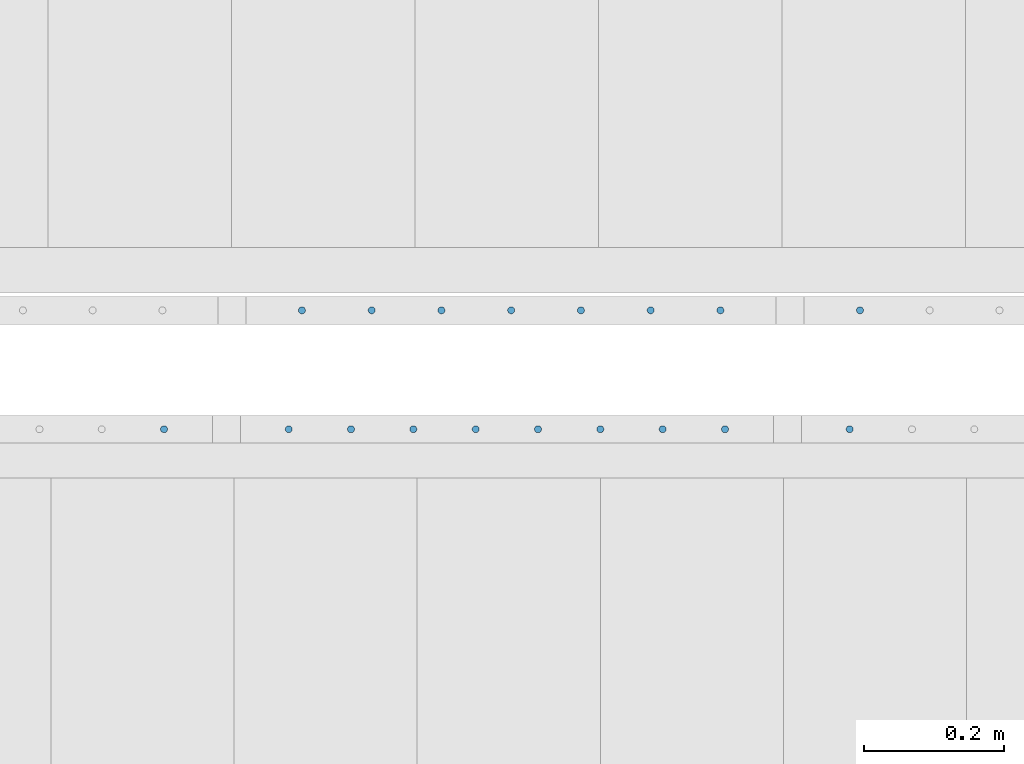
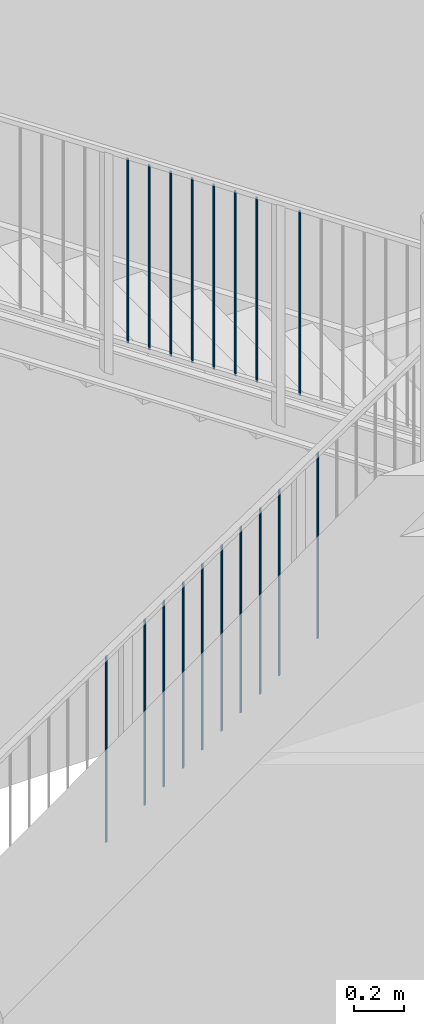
# One storey, part 7 of 117: 18 members, 2 elements without a shape of their own.
"""IFC2X3 building model written with IfcOpenShell, lengths in millimetres."""

from ifc_helpers import new_model, entity, si_unit, converted_unit, derived_unit, money_unit, direction, frame, origin_with_axes, place, context, subcontext, project, spatial, faceted_brep, source, transform, mapped, material, type_object, type_shapes, element, aggregate, save


model = new_model("IFC2X3")

# Units and contexts
model_context = context("Model", 3, precision=0.01, world=origin_with_axes(), true_north=direction((0.0, 1.0)))
body_context = subcontext(model_context, "Body", "Model", "MODEL_VIEW")
ifc_project = project(units=[si_unit("LENGTHUNIT", "METRE", prefix="MILLI"), si_unit("AREAUNIT", "SQUARE_METRE"), si_unit("VOLUMEUNIT", "CUBIC_METRE"), converted_unit("PLANEANGLEUNIT", "DEGREE", entity("IfcPlaneAngleMeasure", 0.0174532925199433), si_unit("PLANEANGLEUNIT", "RADIAN"), dimensions=[0, 0, 0, 0, 0, 0, 0]), money_unit("EUR"), converted_unit("TIMEUNIT", "Year", entity("IfcTimeMeasure", 31557600.0), si_unit("TIMEUNIT", "SECOND"), dimensions=[0, 0, 1, 0, 0, 0, 0]), si_unit("MASSUNIT", "GRAM", prefix="KILO"), si_unit("THERMODYNAMICTEMPERATUREUNIT", "DEGREE_CELSIUS"), si_unit("LUMINOUSINTENSITYUNIT", "LUMEN"), si_unit("ENERGYUNIT", "JOULE", prefix="MEGA"), derived_unit("THERMALCONDUCTANCEUNIT", [(si_unit("POWERUNIT", "WATT"), 1), (si_unit("LENGTHUNIT", "METRE"), -1), (si_unit("THERMODYNAMICTEMPERATUREUNIT", "KELVIN"), -1)]), derived_unit("SPECIFICHEATCAPACITYUNIT", [(si_unit("ENERGYUNIT", "JOULE"), 1), (si_unit("MASSUNIT", "GRAM", prefix="KILO"), -1), (si_unit("THERMODYNAMICTEMPERATUREUNIT", "KELVIN"), -1)]), derived_unit("MASSDENSITYUNIT", [(si_unit("MASSUNIT", "GRAM", prefix="KILO"), 1), (si_unit("VOLUMEUNIT", "CUBIC_METRE"), -1)])], contexts=[model_context])

# Site, building, storey
site_placement = place(None, origin_with_axes())
site = spatial("IfcSite", under=ifc_project, at=site_placement, Name="Site", CompositionType="ELEMENT")
building_placement = place(site_placement, origin_with_axes())
building = spatial("IfcBuilding", under=site, at=building_placement, Name="Naam gebouw", CompositionType="ELEMENT")
storey_placement = place(building_placement, frame((0.0, 0.0, 4150.0), z_axis=(0.0, 0.0, 1.0), x_axis=(1.0, 0.0, 0.0)))
storey = spatial("IfcBuildingStorey", under=building, at=storey_placement, Name="1e verdieping N", CompositionType="ELEMENT", Elevation=4150.0)

# Railing, members
railing_type = type_object("IfcRailingType", Name="Railing Type", PredefinedType="NOTDEFINED")
railing_1_placement = place(storey_placement, frame((56130.0, 22285.9124251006, 163.6876419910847), z_axis=(0.0, 0.0, 1.0), x_axis=(1.0, 0.0, 0.0)))
railing_1 = element("IfcRailing", 1, at=railing_1_placement, inside=storey, type_object=railing_type, Name="_Reling-x", PredefinedType="NOTDEFINED")
ifc_material = material(Name="Metaal - Staal C")
member_type = type_object("IfcMemberType", Name="IfcMember", PredefinedType="MEMBER")
shared_shape_1 = source(origin_with_axes(), body_context, "Body", "Brep", [
    faceted_brep([(0.0, -5.000000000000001, -3.340321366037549), (0.8682408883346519, -4.924038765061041, -3.289574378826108), (0.8682408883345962, -4.924038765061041, 904.2104256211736), (0.0, -5.000000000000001, 904.1596786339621), (-0.8682408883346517, -4.924038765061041, -3.289574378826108), (-1.710100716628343, -4.698463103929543, -3.13887533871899), (-2.500000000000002, -4.330127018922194, -2.892803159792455), (-3.213938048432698, -3.83022221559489, -2.558834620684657), (-3.830222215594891, -3.213938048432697, -2.147117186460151), (-4.330127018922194, -2.500000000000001, -1.670160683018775), (-4.698463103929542, -1.710100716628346, -1.142457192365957), (-4.924038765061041, -0.8682408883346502, -0.5800407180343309), (-5.0, 0.0, 0.0), (-4.92403876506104, 0.8682408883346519, 0.5800407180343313), (-4.698463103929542, 1.710100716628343, 1.142457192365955), (-4.330127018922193, 2.500000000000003, 1.670160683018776), (-3.83022221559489, 3.213938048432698, 2.147117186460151), (-3.213938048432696, 3.830222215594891, 2.558834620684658), (-2.5, 4.330127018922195, 2.892803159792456), (-1.710100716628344, 4.698463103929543, 3.13887533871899), (-0.8682408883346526, 4.924038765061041, 3.289574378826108), (0.0, 5.000000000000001, 3.340321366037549), (0.8682408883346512, 4.924038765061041, 3.289574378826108), (1.710100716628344, 4.698463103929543, 3.13887533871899), (2.5, 4.330127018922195, 2.892803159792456), (3.213938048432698, 3.83022221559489, 2.558834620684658), (3.83022221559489, 3.213938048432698, 2.147117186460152), (4.330127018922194, 2.499999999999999, 1.670160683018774), (4.698463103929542, 1.710100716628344, 1.142457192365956), (4.92403876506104, 0.8682408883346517, 0.580040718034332), (5.0, 0.0, 0.0), (4.92403876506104, -0.8682408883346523, -0.5800407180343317), (4.698463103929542, -1.710100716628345, -1.142457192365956), (4.330127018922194, -2.500000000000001, -1.670160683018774), (3.83022221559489, -3.213938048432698, -2.147117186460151), (3.213938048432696, -3.830222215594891, -2.558834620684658), (2.5, -4.330127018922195, -2.892803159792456), (1.710100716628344, -4.698463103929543, -3.13887533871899), (1.710100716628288, -4.698463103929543, 904.3611246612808), (2.499999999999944, -4.330127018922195, 904.6071968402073), (3.213938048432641, -3.830222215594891, 904.9411653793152), (3.830222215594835, -3.213938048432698, 905.3528828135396), (4.330127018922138, -2.500000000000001, 905.8298393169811), (4.698463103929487, -1.710100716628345, 906.3575428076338), (4.924038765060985, -0.8682408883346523, 906.9199592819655), (4.999999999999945, 0.0, 907.4999999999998), (4.924038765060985, 0.8682408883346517, 908.0800407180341), (4.698463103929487, 1.710100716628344, 908.6424571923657), (4.330127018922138, 2.499999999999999, 909.1701606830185), (3.830222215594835, 3.213938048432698, 909.6471171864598), (3.213938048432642, 3.83022221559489, 910.0588346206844), (2.499999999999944, 4.330127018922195, 910.3928031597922), (1.710100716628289, 4.698463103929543, 910.6388753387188), (0.8682408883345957, 4.924038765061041, 910.7895743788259), (0.0, 5.000000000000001, 910.8403213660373), (-0.8682408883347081, 4.924038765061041, 910.7895743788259), (-1.710100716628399, 4.698463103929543, 910.6388753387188), (-2.500000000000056, 4.330127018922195, 910.3928031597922), (-3.213938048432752, 3.830222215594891, 910.0588346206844), (-3.830222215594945, 3.213938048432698, 909.6471171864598), (-4.330127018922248, 2.500000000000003, 909.1701606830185), (-4.698463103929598, 1.710100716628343, 908.6424571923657), (-4.924038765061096, 0.8682408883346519, 908.0800407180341), (-5.000000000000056, 0.0, 907.4999999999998), (-4.924038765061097, -0.8682408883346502, 906.9199592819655), (-4.698463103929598, -1.710100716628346, 906.3575428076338), (-4.330127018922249, -2.500000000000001, 905.8298393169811), (-3.830222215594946, -3.213938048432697, 905.3528828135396), (-3.213938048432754, -3.83022221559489, 904.9411653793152), (-2.500000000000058, -4.330127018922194, 904.6071968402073), (-1.710100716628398, -4.698463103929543, 904.3611246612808), (-0.8682408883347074, -4.924038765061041, 904.2104256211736)], [[[0, 1, 2, 3]], [[0, 4, 5, 6, 7, 8, 9, 10, 11, 12, 13, 14, 15, 16, 17, 18, 19, 20, 21, 22, 23, 24, 25, 26, 27, 28, 29, 30, 31, 32, 33, 34, 35, 36, 37, 1]], [[1, 37, 38, 2]], [[3, 2, 38, 39, 40, 41, 42, 43, 44, 45, 46, 47, 48, 49, 50, 51, 52, 53, 54, 55, 56, 57, 58, 59, 60, 61, 62, 63, 64, 65, 66, 67, 68, 69, 70, 71]], [[4, 0, 3, 71]], [[5, 4, 71, 70]], [[6, 5, 70, 69]], [[7, 6, 69, 68]], [[8, 7, 68, 67]], [[9, 8, 67, 66]], [[10, 9, 66, 65]], [[11, 10, 65, 64]], [[12, 11, 64, 63]], [[13, 12, 63, 62]], [[14, 13, 62, 61]], [[15, 14, 61, 60]], [[16, 15, 60, 59]], [[17, 16, 59, 58]], [[18, 17, 58, 57]], [[19, 18, 57, 56]], [[20, 19, 56, 55]], [[21, 20, 55, 54]], [[22, 21, 54, 53]], [[23, 22, 53, 52]], [[24, 23, 52, 51]], [[25, 24, 51, 50]], [[26, 25, 50, 49]], [[27, 26, 49, 48]], [[28, 27, 48, 47]], [[29, 28, 47, 46]], [[30, 29, 46, 45]], [[31, 30, 45, 44]], [[32, 31, 44, 43]], [[33, 32, 43, 42]], [[34, 33, 42, 41]], [[35, 34, 41, 40]], [[36, 35, 40, 39]], [[37, 36, 39, 38]]]),
])
member_1_placement = place(railing_1_placement, frame((1125.522119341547, 24.99999999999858, 665.1579791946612), z_axis=(0.0, 0.0, 1.0), x_axis=(1.0, 0.0, 0.0)))
member_1 = element("IfcMember", 2, at=member_1_placement, type_object=member_type, material=ifc_material, Name="_Spijlen-x", ObjectType="MEMBER", context=body_context, shape_type="MappedRepresentation", body=[
    mapped(shared_shape_1, transform((0.0, 0.0, 0.0), x_axis=(0.0, -1.0, 0.0), y_axis=(1.0, 0.0, 0.0), z_axis=(0.0, 0.0, 1.0))),
])
member_2_placement = place(railing_1_placement, frame((947.3482510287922, 24.99999999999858, 546.1263833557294), z_axis=(0.0, 0.0, 1.0), x_axis=(1.0, 0.0, 0.0)))
member_2 = element("IfcMember", 3, at=member_2_placement, type_object=member_type, material=ifc_material, Name="_Spijlen-x", ObjectType="MEMBER", context=body_context, shape_type="MappedRepresentation", body=[
    mapped(shared_shape_1, transform((0.0, 0.0, 0.0), x_axis=(0.0, -1.0, 0.0), y_axis=(1.0, 0.0, 0.0), z_axis=(0.0, 0.0, 1.0))),
])
member_3_placement = place(railing_1_placement, frame((1303.695987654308, 24.99999999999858, 784.1895750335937), z_axis=(0.0, 0.0, 1.0), x_axis=(1.0, 0.0, 0.0)))
member_3 = element("IfcMember", 4, at=member_3_placement, type_object=member_type, material=ifc_material, Name="_Spijlen-x", ObjectType="MEMBER", context=body_context, shape_type="MappedRepresentation", body=[
    mapped(shared_shape_1, transform((0.0, 0.0, 0.0), x_axis=(0.0, -1.0, 0.0), y_axis=(1.0, 0.0, 0.0), z_axis=(0.0, 0.0, 1.0))),
])
member_4_placement = place(railing_1_placement, frame((1392.782921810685, 24.99999999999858, 843.7053729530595), z_axis=(0.0, 0.0, 1.0), x_axis=(1.0, 0.0, 0.0)))
member_4 = element("IfcMember", 5, at=member_4_placement, type_object=member_type, material=ifc_material, Name="_Spijlen-x", ObjectType="MEMBER", context=body_context, shape_type="MappedRepresentation", body=[
    mapped(shared_shape_1, transform((0.0, 0.0, 0.0), x_axis=(0.0, -1.0, 0.0), y_axis=(1.0, 0.0, 0.0), z_axis=(0.0, 0.0, 1.0))),
])
member_5_placement = place(railing_1_placement, frame((1214.609053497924, 24.99999999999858, 724.6737771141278), z_axis=(0.0, 0.0, 1.0), x_axis=(1.0, 0.0, 0.0)))
member_5 = element("IfcMember", 6, at=member_5_placement, type_object=member_type, material=ifc_material, Name="_Spijlen-x", ObjectType="MEMBER", context=body_context, shape_type="MappedRepresentation", body=[
    mapped(shared_shape_1, transform((0.0, 0.0, 0.0), x_axis=(0.0, -1.0, 0.0), y_axis=(1.0, 0.0, 0.0), z_axis=(0.0, 0.0, 1.0))),
])
member_6_placement = place(railing_1_placement, frame((1481.869855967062, 24.99999999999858, 903.2211708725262), z_axis=(0.0, 0.0, 1.0), x_axis=(1.0, 0.0, 0.0)))
member_6 = element("IfcMember", 7, at=member_6_placement, type_object=member_type, material=ifc_material, Name="_Spijlen-x", ObjectType="MEMBER", context=body_context, shape_type="MappedRepresentation", body=[
    mapped(shared_shape_1, transform((0.0, 0.0, 0.0), x_axis=(0.0, -1.0, 0.0), y_axis=(1.0, 0.0, 0.0), z_axis=(0.0, 0.0, 1.0))),
])
member_7_placement = place(railing_1_placement, frame((1660.043724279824, 24.99999999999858, 1022.252766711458), z_axis=(0.0, 0.0, 1.0), x_axis=(1.0, 0.0, 0.0)))
member_7 = element("IfcMember", 8, at=member_7_placement, type_object=member_type, material=ifc_material, Name="_Spijlen-x", ObjectType="MEMBER", context=body_context, shape_type="MappedRepresentation", body=[
    mapped(shared_shape_1, transform((0.0, 0.0, 0.0), x_axis=(0.0, -1.0, 0.0), y_axis=(1.0, 0.0, 0.0), z_axis=(0.0, 0.0, 1.0))),
])
member_8_placement = place(railing_1_placement, frame((1570.956790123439, 24.99999999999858, 962.736968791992), z_axis=(0.0, 0.0, 1.0), x_axis=(1.0, 0.0, 0.0)))
member_8 = element("IfcMember", 9, at=member_8_placement, type_object=member_type, material=ifc_material, Name="_Spijlen-x", ObjectType="MEMBER", context=body_context, shape_type="MappedRepresentation", body=[
    mapped(shared_shape_1, transform((0.0, 0.0, 0.0), x_axis=(0.0, -1.0, 0.0), y_axis=(1.0, 0.0, 0.0), z_axis=(0.0, 0.0, 1.0))),
])
member_9_placement = place(railing_1_placement, frame((1749.130658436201, 24.99999999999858, 1081.768564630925), z_axis=(0.0, 0.0, 1.0), x_axis=(1.0, 0.0, 0.0)))
member_9 = element("IfcMember", 10, at=member_9_placement, type_object=member_type, material=ifc_material, Name="_Spijlen-x", ObjectType="MEMBER", context=body_context, shape_type="MappedRepresentation", body=[
    mapped(shared_shape_1, transform((0.0, 0.0, 0.0), x_axis=(0.0, -1.0, 0.0), y_axis=(1.0, 0.0, 0.0), z_axis=(0.0, 0.0, 1.0))),
])
member_10_placement = place(railing_1_placement, frame((1927.304526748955, 24.99999999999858, 1200.800160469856), z_axis=(0.0, 0.0, 1.0), x_axis=(1.0, 0.0, 0.0)))
member_10 = element("IfcMember", 11, at=member_10_placement, type_object=member_type, material=ifc_material, Name="_Spijlen-x", ObjectType="MEMBER", context=body_context, shape_type="MappedRepresentation", body=[
    mapped(shared_shape_1, transform((0.0, 0.0, 0.0), x_axis=(0.0, -1.0, 0.0), y_axis=(1.0, 0.0, 0.0), z_axis=(0.0, 0.0, 1.0))),
])
aggregate(railing_1, [member_1, member_2, member_3, member_4, member_5, member_6, member_7, member_8, member_9, member_10])

railing_2_placement = place(storey_placement, frame((56130.0, 22505.9124251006, 1905.987766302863), z_axis=(0.0, 0.0, 1.0), x_axis=(1.0, 0.0, 0.0)))
railing_2 = element("IfcRailing", 12, at=railing_2_placement, inside=storey, type_object=railing_type, Name="_Reling-x", PredefinedType="NOTDEFINED")
shared_shape_2 = source(origin_with_axes(), body_context, "Body", "Brep", [
    faceted_brep([(0.0, -5.0, 3.357180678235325), (0.0, -5.000000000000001, 910.8571806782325), (-0.8682408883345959, -4.924038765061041, 910.806177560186), (-0.8682408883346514, -4.92403876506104, 3.306177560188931), (0.8682408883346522, -4.92403876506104, 3.306177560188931), (0.8682408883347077, -4.924038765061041, 910.806177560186), (1.710100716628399, -4.698463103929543, 910.6547179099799), (2.500000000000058, -4.330127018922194, 910.4074037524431), (3.213938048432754, -3.83022221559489, 910.0717496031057), (3.830222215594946, -3.213938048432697, 909.6579541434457), (4.330127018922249, -2.500000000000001, 909.1785903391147), (4.698463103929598, -1.710100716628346, 908.6482234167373), (4.924038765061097, -0.8682408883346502, 908.0829683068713), (5.000000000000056, 0.0, 907.499999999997), (4.924038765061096, 0.8682408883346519, 906.9170316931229), (4.698463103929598, 1.710100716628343, 906.3517765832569), (4.330127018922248, 2.500000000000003, 905.8214096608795), (3.830222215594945, 3.213938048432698, 905.3420458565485), (3.213938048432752, 3.830222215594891, 904.9282503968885), (2.500000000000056, 4.330127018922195, 904.5925962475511), (1.710100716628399, 4.698463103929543, 904.3452820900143), (0.8682408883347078, 4.924038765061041, 904.1938224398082), (0.0, 5.000000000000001, 904.1428193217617), (-0.868240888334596, 4.924038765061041, 904.1938224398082), (-1.710100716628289, 4.698463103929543, 904.3452820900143), (-2.499999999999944, 4.330127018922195, 904.5925962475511), (-3.213938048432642, 3.83022221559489, 904.9282503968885), (-3.830222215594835, 3.213938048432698, 905.3420458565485), (-4.330127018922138, 2.499999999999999, 905.8214096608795), (-4.698463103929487, 1.710100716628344, 906.3517765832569), (-4.924038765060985, 0.8682408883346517, 906.9170316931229), (-4.999999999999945, 0.0, 907.499999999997), (-4.924038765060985, -0.8682408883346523, 908.0829683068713), (-4.698463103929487, -1.710100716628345, 908.6482234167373), (-4.330127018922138, -2.500000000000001, 909.1785903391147), (-3.830222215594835, -3.213938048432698, 909.6579541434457), (-3.213938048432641, -3.830222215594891, 910.0717496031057), (-2.499999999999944, -4.330127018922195, 910.4074037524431), (-1.710100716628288, -4.698463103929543, 910.6547179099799), (-1.710100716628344, -4.698463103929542, 3.154717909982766), (-2.5, -4.330127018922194, 2.907403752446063), (-3.213938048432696, -3.83022221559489, 2.571749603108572), (-3.83022221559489, -3.213938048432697, 2.15795414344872), (-4.330127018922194, -2.5, 1.678590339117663), (-4.698463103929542, -1.710100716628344, 1.148223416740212), (-4.92403876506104, -0.8682408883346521, 0.5829683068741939), (-5.0, 0.0, 0.0), (-4.92403876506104, 0.8682408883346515, -0.582968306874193), (-4.698463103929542, 1.710100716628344, -1.148223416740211), (-4.330127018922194, 2.499999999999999, -1.678590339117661), (-3.83022221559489, 3.213938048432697, -2.157954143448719), (-3.213938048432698, 3.83022221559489, -2.571749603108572), (-2.5, 4.330127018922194, -2.907403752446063), (-1.710100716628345, 4.698463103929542, -3.154717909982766), (-0.8682408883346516, 4.92403876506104, -3.306177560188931), (0.0, 5.0, -3.357180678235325), (0.8682408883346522, 4.92403876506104, -3.306177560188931), (1.710100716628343, 4.698463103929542, -3.154717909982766), (2.5, 4.330127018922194, -2.907403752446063), (3.213938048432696, 3.83022221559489, -2.571749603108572), (3.83022221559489, 3.213938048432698, -2.157954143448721), (4.330127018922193, 2.500000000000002, -1.678590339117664), (4.698463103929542, 1.710100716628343, -1.148223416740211), (4.92403876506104, 0.8682408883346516, -0.5829683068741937), (5.0, 0.0, 0.0), (4.924038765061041, -0.86824088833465, 0.5829683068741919), (4.698463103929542, -1.710100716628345, 1.148223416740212), (4.330127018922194, -2.5, 1.678590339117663), (3.830222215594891, -3.213938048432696, 2.157954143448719), (3.213938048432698, -3.830222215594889, 2.571749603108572), (2.500000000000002, -4.330127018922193, 2.907403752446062), (1.710100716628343, -4.698463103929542, 3.154717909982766)], [[[0, 1, 2, 3]], [[4, 5, 1, 0]], [[1, 5, 6, 7, 8, 9, 10, 11, 12, 13, 14, 15, 16, 17, 18, 19, 20, 21, 22, 23, 24, 25, 26, 27, 28, 29, 30, 31, 32, 33, 34, 35, 36, 37, 38, 2]], [[3, 2, 38, 39]], [[0, 3, 39, 40, 41, 42, 43, 44, 45, 46, 47, 48, 49, 50, 51, 52, 53, 54, 55, 56, 57, 58, 59, 60, 61, 62, 63, 64, 65, 66, 67, 68, 69, 70, 71, 4]], [[71, 6, 5, 4]], [[70, 7, 6, 71]], [[69, 8, 7, 70]], [[68, 9, 8, 69]], [[67, 10, 9, 68]], [[66, 11, 10, 67]], [[65, 12, 11, 66]], [[64, 13, 12, 65]], [[63, 14, 13, 64]], [[62, 15, 14, 63]], [[61, 16, 15, 62]], [[60, 17, 16, 61]], [[59, 18, 17, 60]], [[58, 19, 18, 59]], [[57, 20, 19, 58]], [[56, 21, 20, 57]], [[55, 22, 21, 56]], [[54, 23, 22, 55]], [[53, 24, 23, 54]], [[52, 25, 24, 53]], [[51, 26, 25, 52]], [[50, 27, 26, 51]], [[49, 28, 27, 50]], [[48, 29, 28, 49]], [[47, 30, 29, 48]], [[46, 31, 30, 47]], [[45, 32, 31, 46]], [[44, 33, 32, 45]], [[43, 34, 33, 44]], [[42, 35, 34, 43]], [[41, 36, 35, 42]], [[40, 37, 36, 41]], [[39, 38, 37, 40]]]),
])
type_shapes(member_type, [shared_shape_1, shared_shape_2])
member_11_placement = place(railing_2_placement, frame((1144.384038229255, -24.99999999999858, 1074.210601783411), z_axis=(0.0, 0.0, 1.0), x_axis=(1.0, 0.0, 0.0)))
member_11 = element("IfcMember", 13, at=member_11_placement, type_object=member_type, material=ifc_material, Name="_Spijlen-x", ObjectType="MEMBER", context=body_context, shape_type="MappedRepresentation", body=[
    mapped(shared_shape_2, transform((0.0, 0.0, 0.0), x_axis=(0.0, -1.0, 0.0), y_axis=(1.0, 0.0, 0.0), z_axis=(0.0, 0.0, 1.0))),
])
member_12_placement = place(railing_2_placement, frame((1244.09176901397, -24.99999999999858, 1007.263228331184), z_axis=(0.0, 0.0, 1.0), x_axis=(1.0, 0.0, 0.0)))
member_12 = element("IfcMember", 14, at=member_12_placement, type_object=member_type, material=ifc_material, Name="_Spijlen-x", ObjectType="MEMBER", context=body_context, shape_type="MappedRepresentation", body=[
    mapped(shared_shape_2, transform((0.0, 0.0, 0.0), x_axis=(0.0, -1.0, 0.0), y_axis=(1.0, 0.0, 0.0), z_axis=(0.0, 0.0, 1.0))),
])
member_13_placement = place(railing_2_placement, frame((1343.799499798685, -24.99999999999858, 940.315854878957), z_axis=(0.0, 0.0, 1.0), x_axis=(1.0, 0.0, 0.0)))
member_13 = element("IfcMember", 15, at=member_13_placement, type_object=member_type, material=ifc_material, Name="_Spijlen-x", ObjectType="MEMBER", context=body_context, shape_type="MappedRepresentation", body=[
    mapped(shared_shape_2, transform((0.0, 0.0, 0.0), x_axis=(0.0, -1.0, 0.0), y_axis=(1.0, 0.0, 0.0), z_axis=(0.0, 0.0, 1.0))),
])
member_14_placement = place(railing_2_placement, frame((1443.5072305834, -24.99999999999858, 873.3684814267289), z_axis=(0.0, 0.0, 1.0), x_axis=(1.0, 0.0, 0.0)))
member_14 = element("IfcMember", 16, at=member_14_placement, type_object=member_type, material=ifc_material, Name="_Spijlen-x", ObjectType="MEMBER", context=body_context, shape_type="MappedRepresentation", body=[
    mapped(shared_shape_2, transform((0.0, 0.0, 0.0), x_axis=(0.0, -1.0, 0.0), y_axis=(1.0, 0.0, 0.0), z_axis=(0.0, 0.0, 1.0))),
])
member_15_placement = place(railing_2_placement, frame((1543.214961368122, -24.99999999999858, 806.4211079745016), z_axis=(0.0, 0.0, 1.0), x_axis=(1.0, 0.0, 0.0)))
member_15 = element("IfcMember", 17, at=member_15_placement, type_object=member_type, material=ifc_material, Name="_Spijlen-x", ObjectType="MEMBER", context=body_context, shape_type="MappedRepresentation", body=[
    mapped(shared_shape_2, transform((0.0, 0.0, 0.0), x_axis=(0.0, -1.0, 0.0), y_axis=(1.0, 0.0, 0.0), z_axis=(0.0, 0.0, 1.0))),
])
member_16_placement = place(railing_2_placement, frame((1642.922692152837, -24.99999999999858, 739.4737345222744), z_axis=(0.0, 0.0, 1.0), x_axis=(1.0, 0.0, 0.0)))
member_16 = element("IfcMember", 18, at=member_16_placement, type_object=member_type, material=ifc_material, Name="_Spijlen-x", ObjectType="MEMBER", context=body_context, shape_type="MappedRepresentation", body=[
    mapped(shared_shape_2, transform((0.0, 0.0, 0.0), x_axis=(0.0, -1.0, 0.0), y_axis=(1.0, 0.0, 0.0), z_axis=(0.0, 0.0, 1.0))),
])
member_17_placement = place(railing_2_placement, frame((1742.630422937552, -24.99999999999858, 672.5263610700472), z_axis=(0.0, 0.0, 1.0), x_axis=(1.0, 0.0, 0.0)))
member_17 = element("IfcMember", 19, at=member_17_placement, type_object=member_type, material=ifc_material, Name="_Spijlen-x", ObjectType="MEMBER", context=body_context, shape_type="MappedRepresentation", body=[
    mapped(shared_shape_2, transform((0.0, 0.0, 0.0), x_axis=(0.0, -1.0, 0.0), y_axis=(1.0, 0.0, 0.0), z_axis=(0.0, 0.0, 1.0))),
])
member_18_placement = place(railing_2_placement, frame((1942.045884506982, -24.99999999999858, 538.6316141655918), z_axis=(0.0, 0.0, 1.0), x_axis=(1.0, 0.0, 0.0)))
member_18 = element("IfcMember", 20, at=member_18_placement, type_object=member_type, material=ifc_material, Name="_Spijlen-x", ObjectType="MEMBER", context=body_context, shape_type="MappedRepresentation", body=[
    mapped(shared_shape_2, transform((0.0, 0.0, 0.0), x_axis=(0.0, -1.0, 0.0), y_axis=(1.0, 0.0, 0.0), z_axis=(0.0, 0.0, 1.0))),
])
aggregate(railing_2, [member_11, member_12, member_13, member_14, member_15, member_16, member_17, member_18])

save(model, "model.ifc")
